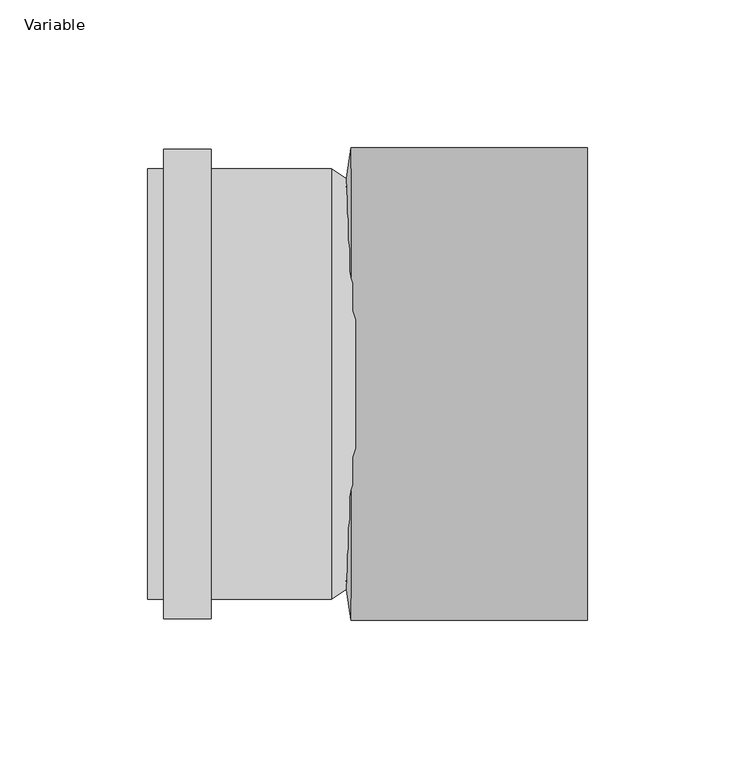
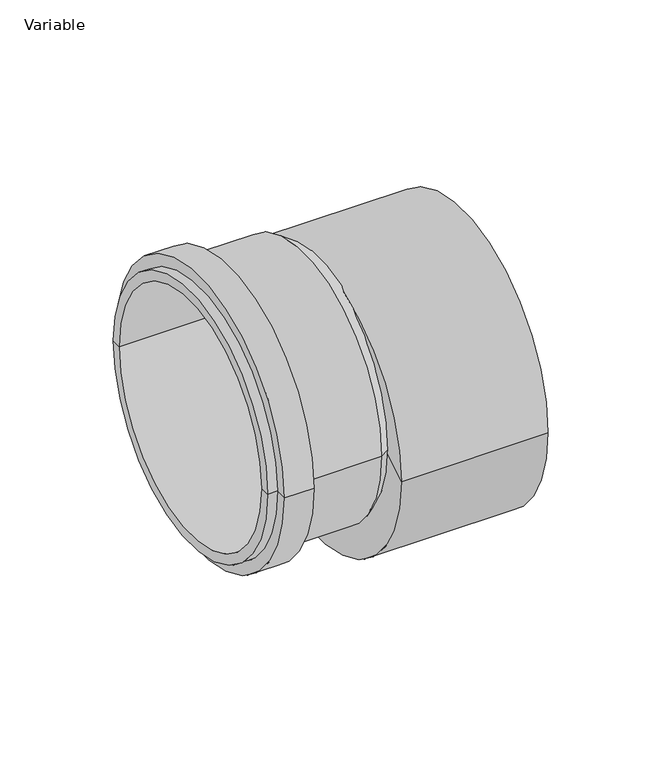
"""IFC4 building model written with IfcOpenShell, lengths in millimetres: pipe fitting geometry, AliaxisFR_Friaphon_Reducer_FR : Variable."""

import ifcopenshell
import ifcopenshell.guid

model = None  # the IFC model being written
_history = None  # IfcOwnerHistory: only IFC2X3 demands one
_inside = {}  # id of a spatial element -> (the spatial element, [elements in it])
_under = {}  # id of a project, library or spatial element -> (it, [spatial elements below it])
_declared = {}  # id of a project -> (the project, [libraries it declares])
_typed = {}  # id of a type object -> (the type object, [elements of that type])
_made_of = {}  # id of a material, layer set ... -> (it, [elements and type objects made of it])


def new_model(schema):
    """Start an empty IFC model of exactly this schema.

    Asked for "IFC4X3", IfcOpenShell would pick the latest addendum, in which some entities
    have other attributes; the version numbers below select the first issue.
    IFC2X3 requires an IfcOwnerHistory on every rooted entity: one is made here for all.
    """
    global model, _history
    if schema == "IFC4X3":
        model = ifcopenshell.file(schema_version=(4, 3, 0, 0))
    else:
        model = ifcopenshell.file(schema=schema)
    _inside.clear()
    _under.clear()
    _declared.clear()
    _typed.clear()
    _made_of.clear()
    _history = None
    if model.schema == "IFC2X3":
        org = make("IfcOrganization", Name="unknown")
        user = make(
            "IfcPersonAndOrganization",
            ThePerson=make("IfcPerson", FamilyName="unknown"),
            TheOrganization=org,
        )
        app = make(
            "IfcApplication",
            ApplicationDeveloper=org,
            Version="unknown",
            ApplicationFullName="unknown",
            ApplicationIdentifier="unknown",
        )
        _history = make(
            "IfcOwnerHistory",
            OwningUser=user,
            OwningApplication=app,
            ChangeAction="ADDED",
            CreationDate=0,
        )
    return model


def make(cls, **values):
    """One entity of the class cls with the attributes given. An attribute that is None is left unset."""
    return model.create_entity(
        cls, **{name: value for name, value in values.items() if value is not None}
    )


def rooted(cls, **values):
    """An entity with a GlobalId (a new one), such as an element, a storey or a relation."""
    return make(cls, GlobalId=ifcopenshell.guid.new(), OwnerHistory=_history, **values)


def si_unit(unit_type, name, prefix=None):
    """IfcSIUnit, for example si_unit("LENGTHUNIT", "METRE", prefix="MILLI")."""
    return make("IfcSIUnit", UnitType=unit_type, Prefix=prefix, Name=name)


def assignment(units):
    """IfcUnitAssignment: the units of a project."""
    return None if units is None else make("IfcUnitAssignment", Units=units)


def point(xyz):
    """IfcCartesianPoint."""
    return None if xyz is None else make("IfcCartesianPoint", Coordinates=xyz)


def direction(xyz):
    """IfcDirection."""
    return None if xyz is None else make("IfcDirection", DirectionRatios=xyz)


def frame(location, z_axis=None, x_axis=None):
    """IfcAxis2Placement3D, a coordinate frame: its origin and axes. An axis left out is left unset."""
    return make(
        "IfcAxis2Placement3D",
        Location=point(location),
        Axis=direction(z_axis),
        RefDirection=direction(x_axis),
    )


def frame_2d(location, x_axis=None):
    """IfcAxis2Placement2D, a coordinate frame in the plane: its origin and x axis."""
    return make(
        "IfcAxis2Placement2D", Location=point(location), RefDirection=direction(x_axis)
    )


def origin():
    """The frame at (0, 0, 0) with its axes left unset."""
    return frame((0.0, 0.0, 0.0))


def origin_2d():
    """The frame at (0, 0) in the plane with its x axis left unset."""
    return frame_2d((0.0, 0.0))


def place(relative_to, where):
    """IfcLocalPlacement: puts the frame where relative to a parent placement (None: the world)."""
    return make(
        "IfcLocalPlacement", PlacementRelTo=relative_to, RelativePlacement=where
    )


def context(
    kind, dimensions, precision=None, world=None, true_north=None, identifier=None
):
    """IfcGeometricRepresentationContext, for example the 3D "Model" context."""
    return make(
        "IfcGeometricRepresentationContext",
        ContextIdentifier=identifier,
        ContextType=kind,
        CoordinateSpaceDimension=dimensions,
        Precision=precision,
        WorldCoordinateSystem=world,
        TrueNorth=true_north,
    )


def project(units=None, contexts=None):
    """IfcProject with its units and contexts."""
    return rooted(
        "IfcProject",
        Name="project",
        RepresentationContexts=contexts,
        UnitsInContext=assignment(units),
    )


def spatial(cls, under=None, at=None, **own):
    """A site, building, storey or space (cls), placed at a placement, below another one or the project."""
    s = rooted(cls, ObjectPlacement=at, **own)
    if under is not None:
        _under.setdefault(under.id(), (under, []))[1].append(s)
    return s


def polyline(points):
    """IfcPolyline through the points."""
    return make("IfcPolyline", Points=[point(p) for p in points])


def circle_curve(where, radius):
    """IfcCircle in the frame where."""
    return make("IfcCircle", Position=where, Radius=radius)


def trimmed(basis, trim1, trim2, sense, master):
    """IfcTrimmedCurve: the piece of a basis curve between two trims."""
    return make(
        "IfcTrimmedCurve",
        BasisCurve=basis,
        Trim1=trim1,
        Trim2=trim2,
        SenseAgreement=sense,
        MasterRepresentation=master,
    )


def segment(curve, same_sense, transition):
    """IfcCompositeCurveSegment."""
    return make(
        "IfcCompositeCurveSegment",
        Transition=transition,
        SameSense=same_sense,
        ParentCurve=curve,
    )


def composite_curve(segments, self_intersect=None):
    """IfcCompositeCurve: segments joined end to end."""
    return make("IfcCompositeCurve", Segments=segments, SelfIntersect=self_intersect)


def outline(outer, holes=None, kind="AREA"):
    """IfcArbitraryClosedProfileDef: a profile drawn as a closed curve; with holes, ...WithVoids."""
    if holes is None:
        return make("IfcArbitraryClosedProfileDef", ProfileType=kind, OuterCurve=outer)
    return make(
        "IfcArbitraryProfileDefWithVoids",
        ProfileType=kind,
        OuterCurve=outer,
        InnerCurves=holes,
    )


def extrude(swept, where, along, depth):
    """IfcExtrudedAreaSolid: the profile swept, set in the frame where, extruded along a direction by depth."""
    return make(
        "IfcExtrudedAreaSolid",
        SweptArea=swept,
        Position=where,
        ExtrudedDirection=direction(along),
        Depth=depth,
    )


def shape(context_of_items, identifier, shape_type, items):
    """IfcShapeRepresentation: the items that make up one representation, for example the "Body"."""
    return make(
        "IfcShapeRepresentation",
        ContextOfItems=context_of_items,
        RepresentationIdentifier=identifier,
        RepresentationType=shape_type,
        Items=items,
    )


def source(mapping_origin, context_of_items, identifier, shape_type, items):
    """IfcRepresentationMap: a shape defined once, which mapped items show again and again."""
    return make(
        "IfcRepresentationMap",
        MappingOrigin=mapping_origin,
        MappedRepresentation=shape(context_of_items, identifier, shape_type, items),
    )


def transform(
    local_origin,
    x_axis=None,
    y_axis=None,
    z_axis=None,
    scale=None,
    scale2=None,
    scale3=None,
    uniform=True,
):
    """IfcCartesianTransformationOperator3D, or its non-uniform kind. x_axis, y_axis, z_axis: its Axis1, 2, 3."""
    if uniform:
        return make(
            "IfcCartesianTransformationOperator3D",
            Axis1=direction(x_axis),
            Axis2=direction(y_axis),
            LocalOrigin=point(local_origin),
            Scale=scale,
            Axis3=direction(z_axis),
        )
    return make(
        "IfcCartesianTransformationOperator3DnonUniform",
        Axis1=direction(x_axis),
        Axis2=direction(y_axis),
        LocalOrigin=point(local_origin),
        Scale=scale,
        Axis3=direction(z_axis),
        Scale2=scale2,
        Scale3=scale3,
    )


def mapped(mapping_source, mapping_target):
    """IfcMappedItem: shows the shape of a source again, moved by a transform."""
    return make(
        "IfcMappedItem", MappingSource=mapping_source, MappingTarget=mapping_target
    )


def made_of(thing, what):
    """Note that an element or type object is made of a material, layer set ...; save() writes the relation."""
    if what is not None:
        _made_of.setdefault(what.id(), (what, []))[1].append(thing)
    return thing


def element(
    cls,
    number,
    at=None,
    inside=None,
    cuts=None,
    type_object=None,
    material=None,
    context=None,
    identifier="Body",
    shape_type=None,
    held_by="IfcProductDefinitionShape",
    body=None,
    shapes=None,
    **own,
):
    """One element of the class cls, such as IfcWall. Its Tag is "e" and its number.

    at: its placement. inside: the storey or other place that contains it. cuts: it is an
    opening in that element (IfcRelVoidsElement). A single representation is given by context,
    identifier, shape_type and body (its items); several are given by shapes. held_by: the class
    of the entity that holds the representations. save() writes the other relations.
    """
    e = rooted(cls, Tag="e%d" % number, ObjectPlacement=at, **own)
    if body is not None:
        shapes = [shape(context, identifier, shape_type, body)]
    if shapes is not None:
        e.Representation = make(held_by, Representations=shapes)
    if inside is not None:
        _inside.setdefault(inside.id(), (inside, []))[1].append(e)
    if cuts is not None:
        rooted(
            "IfcRelVoidsElement", RelatingBuildingElement=cuts, RelatedOpeningElement=e
        )
    if type_object is not None:
        _typed.setdefault(type_object.id(), (type_object, []))[1].append(e)
    return made_of(e, material)


def aggregate(whole, parts):
    """IfcRelAggregates: a whole, such as a stair, and the parts it consists of."""
    return rooted("IfcRelAggregates", RelatingObject=whole, RelatedObjects=parts)


def save(model, path):
    """Write the relations noted so far, then the file.

    IfcRelAggregates (storeys below a building ...), IfcRelContainedInSpatialStructure (elements
    in a storey), IfcRelDefinesByType, IfcRelAssociatesMaterial and IfcRelDeclares: one each for
    every whole, place, type object, material and project.
    """
    for whole, parts in _under.values():
        aggregate(whole, parts)
    for where, things in _inside.values():
        rooted(
            "IfcRelContainedInSpatialStructure",
            RelatedElements=things,
            RelatingStructure=where,
        )
    for kind, things in _typed.values():
        rooted("IfcRelDefinesByType", RelatedObjects=things, RelatingType=kind)
    for what, things in _made_of.values():
        rooted("IfcRelAssociatesMaterial", RelatedObjects=things, RelatingMaterial=what)
    for by, libraries in _declared.values():
        rooted("IfcRelDeclares", RelatingContext=by, RelatedDefinitions=libraries)
    model.write(path)


def plane_surface(at):
    """IfcPlane: the flat surface through the origin of the frame at, square to its z axis."""
    return make("IfcPlane", Position=at)


def cylinder_surface(at, radius):
    """IfcCylindricalSurface: all points at the distance radius from the z axis of the frame at."""
    return make("IfcCylindricalSurface", Position=at, Radius=radius)


def revolved_surface(curve, axis_point, axis_direction):
    """IfcSurfaceOfRevolution: the curve turned about the line through axis_point along axis_direction."""
    return make(
        "IfcSurfaceOfRevolution",
        SweptCurve=make("IfcArbitraryOpenProfileDef", ProfileType="CURVE", Curve=curve),
        AxisPosition=make("IfcAxis1Placement", Location=point(axis_point), Axis=direction(axis_direction)),
    )


def spline_surface(u_degree, v_degree, points, u_multiplicities, v_multiplicities, u_knots, v_knots, weights=None):
    """IfcBSplineSurfaceWithKnots; with weights, IfcRationalBSplineSurfaceWithKnots. points: one row for each step in u."""
    own = dict(
        UDegree=u_degree,
        VDegree=v_degree,
        ControlPointsList=[[point(p) for p in row] for row in points],
        SurfaceForm="UNSPECIFIED",
        UClosed=False,
        VClosed=False,
        SelfIntersect=False,
        UMultiplicities=u_multiplicities,
        VMultiplicities=v_multiplicities,
        UKnots=u_knots,
        VKnots=v_knots,
        KnotSpec="UNSPECIFIED",
    )
    if weights is None:
        return make("IfcBSplineSurfaceWithKnots", **own)
    return make("IfcRationalBSplineSurfaceWithKnots", WeightsData=weights, **own)


def advanced_brep(points, edges, surfaces, faces):
    """IfcAdvancedBrep: a solid bounded by faces that lie on surfaces and meet in shared edges.

    An edge is (start, end): straight between two places in points (the first is 0);
    or (start, end, curve); or (start, end, curve, False) where it runs against its curve.
    A face is (place in surfaces, loops), or (place, loops, False) where it looks against
    its surface's normal. A loop lists edges by number (the first is 1), with a minus sign
    where the edge is run from its end to its start. The first loop is the outer one.
    """
    corners = [point(p) for p in points]
    vertices = [make("IfcVertexPoint", VertexGeometry=c) for c in corners]
    made = []
    for start, end, *more in edges:
        made.append(
            make(
                "IfcEdgeCurve",
                EdgeStart=vertices[start],
                EdgeEnd=vertices[end],
                EdgeGeometry=more[0] if more else make("IfcPolyline", Points=[corners[start], corners[end]]),
                SameSense=more[1] if len(more) > 1 else True,
            )
        )
    hull = []
    for where, loops, *sense in faces:
        bounds = []
        for j, loop in enumerate(loops):
            ring = [make("IfcOrientedEdge", EdgeElement=made[abs(k) - 1], Orientation=k > 0) for k in loop]
            bounds.append(
                make(
                    "IfcFaceOuterBound" if j == 0 else "IfcFaceBound",
                    Bound=make("IfcEdgeLoop", EdgeList=ring),
                    Orientation=True,
                )
            )
        hull.append(make("IfcAdvancedFace", Bounds=bounds, FaceSurface=surfaces[where], SameSense=sense[0] if sense else True))
    return make("IfcAdvancedBrep", Outer=make("IfcClosedShell", CfsFaces=hull))


def variable_e2a04ae8(model_context):
    return source(origin(), model_context, "Body", "SolidModel", [
        advanced_brep(
        [(-107.0, -72.9, 0.0), (-107.0, 72.9, 0.0), (-107.0, 67.5, 0.0), (-107.0, -67.5, 0.0), (-85.5, -79.5, 0.0), (-85.5, 79.5, 0.0), (-101.6, 79.5, 0.0), (-101.6, -79.5, 0.0), (-85.5, -72.9, 0.0), (-85.5, 72.9, 0.0), (-44.7, -72.9, 0.0), (-44.7, 72.9, 0.0), (-36.6, 67.5, 0.0), (-36.6, -67.5, 0.0), (-101.6, -72.9, 0.0), (-101.6, 72.9, 0.0)],
        [
            (0, 1, circle_curve(frame((-107.0, 0.0, 0.0), z_axis=(-1.0, 0.0, 0.0), x_axis=(0.0, 1.0, 0.0)), 72.9)),
            (1, 2),
            (2, 3, circle_curve(frame((-107.0, 0.0, 0.0), z_axis=(1.0, 0.0, 0.0), x_axis=(0.0, 1.0, 0.0)), 67.5)),
            (3, 0),
            (1, 0, circle_curve(frame((-107.0, 0.0, 0.0), z_axis=(-1.0, 0.0, 0.0), x_axis=(0.0, 1.0, 0.0)), 72.9)),
            (3, 2, circle_curve(frame((-107.0, 0.0, 0.0), z_axis=(1.0, 0.0, 0.0), x_axis=(0.0, 1.0, 0.0)), 67.5)),
            (4, 5, circle_curve(frame((-85.5, 0.0, 0.0), z_axis=(-1.0, 0.0, 0.0), x_axis=(0.0, 1.0, 0.0)), 79.5)),
            (5, 6),
            (6, 7, circle_curve(frame((-101.6, 0.0, 0.0), z_axis=(1.0, 0.0, 0.0), x_axis=(0.0, 1.0, 0.0)), 79.5)),
            (7, 4),
            (5, 4, circle_curve(frame((-85.5, 0.0, 0.0), z_axis=(-1.0, 0.0, 0.0), x_axis=(0.0, 1.0, 0.0)), 79.5)),
            (7, 6, circle_curve(frame((-101.6, 0.0, 0.0), z_axis=(1.0, 0.0, 0.0), x_axis=(0.0, 1.0, 0.0)), 79.5)),
            (8, 9, circle_curve(frame((-85.5, 0.0, 0.0), z_axis=(-1.0, 0.0, 0.0), x_axis=(0.0, 1.0, 0.0)), 72.9)),
            (9, 5),
            (4, 8),
            (9, 8, circle_curve(frame((-85.5, 0.0, 0.0), z_axis=(-1.0, 0.0, 0.0), x_axis=(0.0, 1.0, 0.0)), 72.9)),
            (10, 11, circle_curve(frame((-44.7, 0.0, 0.0), z_axis=(-1.0, 0.0, 0.0), x_axis=(0.0, 1.0, 0.0)), 72.9)),
            (11, 9),
            (8, 10),
            (11, 10, circle_curve(frame((-44.7, 0.0, 0.0), z_axis=(-1.0, 0.0, 0.0), x_axis=(0.0, 1.0, 0.0)), 72.9)),
            (2, 12),
            (12, 13, circle_curve(frame((-36.6, 0.0, 0.0), z_axis=(1.0, 0.0, 0.0), x_axis=(0.0, 1.0, 0.0)), 67.5)),
            (13, 3),
            (13, 12, circle_curve(frame((-36.6, 0.0, 0.0), z_axis=(1.0, 0.0, 0.0), x_axis=(0.0, 1.0, 0.0)), 67.5)),
            (12, 11),
            (10, 13),
            (14, 15, circle_curve(frame((-101.6, 0.0, 0.0), z_axis=(-1.0, 0.0, 0.0), x_axis=(0.0, 1.0, 0.0)), 72.9)),
            (15, 1),
            (0, 14),
            (15, 14, circle_curve(frame((-101.6, 0.0, 0.0), z_axis=(-1.0, 0.0, 0.0), x_axis=(0.0, 1.0, 0.0)), 72.9)),
            (6, 15),
            (14, 7),
        ],
        [
            plane_surface(frame((-107.0, 0.0, 0.0), z_axis=(-1.0, 0.0, 0.0), x_axis=(0.0, 1.0, 0.0))),
            cylinder_surface(frame((-36.6, 0.0, 0.0), z_axis=(1.0, 0.0, 0.0), x_axis=(0.0, 1.0, 0.0)), 79.5),
            plane_surface(frame((-85.5, 0.0, 0.0), z_axis=(1.0, 0.0, 0.0), x_axis=(0.0, 1.0, 0.0))),
            cylinder_surface(frame((-36.6, 0.0, 0.0), z_axis=(1.0, 0.0, 0.0), x_axis=(0.0, 1.0, 0.0)), 72.9),
            revolved_surface(polyline([(-36.6, 67.5, 0.0), (-107.0, 67.5, 0.0)]), (-36.6, 0.0, 0.0), (1.0, 0.0, 0.0)),
            revolved_surface(polyline([(-44.7, 72.9, 0.0), (-36.6, 67.5, 0.0)]), (-36.6, 0.0, 0.0), (1.0, 0.0, 0.0)),
            plane_surface(frame((-101.6, 0.0, 0.0), z_axis=(-1.0, 0.0, 0.0), x_axis=(0.0, 1.0, 0.0))),
        ],
        [
            (0, [[1, 2, 3, 4]]),
            (0, [[5, -4, 6, -2]]),
            (1, [[7, 8, 9, 10]]),
            (1, [[11, -10, 12, -8]]),
            (2, [[13, 14, -7, 15]]),
            (2, [[16, -15, -11, -14]]),
            (3, [[17, 18, -13, 19]]),
            (3, [[20, -19, -16, -18]]),
            (4, [[-3, 21, 22, 23]]),
            (4, [[-6, -23, 24, -21]]),
            (5, [[-22, 25, -17, 26]]),
            (5, [[-24, -26, -20, -25]]),
            (3, [[27, 28, -1, 29]]),
            (3, [[30, -29, -5, -28]]),
            (6, [[-9, 31, -27, 32]]),
            (6, [[-12, -32, -30, -31]]),
        ],
    ),
        extrude(outline(composite_curve([segment(trimmed(circle_curve(origin_2d(), 67.5), [point((-67.5, 0.0))], [point((67.5, 0.0))], False, "CARTESIAN"), True, "CONTINUOUS"), segment(trimmed(circle_curve(origin_2d(), 67.5), [point((67.5, 0.0))], [point((-67.5, 0.0))], False, "CARTESIAN"), True, "CONTINUOUS")], self_intersect=False)), frame((-42.0, 0.0, 0.0), z_axis=(1.0, 0.0, 0.0), x_axis=(0.0, 1.0, 0.0)), (0.0, 0.0, 1.0), 2.0),
        advanced_brep(
        [(-40.0, -67.5, 0.0), (-40.0, 67.5, 0.0), (-38.0, -80.0, -12.5), (-38.0, 80.0, -12.5)],
        [
            (0, 1, circle_curve(frame((-40.0, 0.0, 0.0), z_axis=(-1.0, 0.0, 0.0), x_axis=(0.0, 1.0, 0.0)), 67.5)),
            (1, 0, circle_curve(frame((-40.0, 0.0, 0.0), z_axis=(-1.0, 0.0, 0.0), x_axis=(0.0, 1.0, 0.0)), 67.5)),
            (2, 3, circle_curve(frame((-38.0, 0.0, -12.5), z_axis=(1.0, 0.0, 0.0), x_axis=(0.0, 1.0, 0.0)), 80.0)),
            (3, 2, circle_curve(frame((-38.0, 0.0, -12.5), z_axis=(1.0, 0.0, 0.0), x_axis=(0.0, 1.0, 0.0)), 80.0)),
            (3, 1),
            (0, 2),
        ],
        [
            plane_surface(frame((-40.0, 0.0, 0.0), z_axis=(-1.0, 0.0, 0.0), x_axis=(0.0, 0.0, 1.0))),
            plane_surface(frame((-38.0, 0.0, -12.5), z_axis=(1.0, 0.0, 0.0), x_axis=(0.0, 0.0, 1.0))),
            spline_surface(2, 1, [[(-38.0, -80.0, -12.5), (-40.0, -67.5, 0.0)], [(-38.0, -80.0, 67.5), (-40.0, -67.5, 67.5)], [(-38.0, 0.0, 67.5), (-40.0, 0.0, 67.5)], [(-38.0, 80.0, 67.5), (-40.0, 67.5, 67.5)], [(-38.0, 80.0, -12.5), (-40.0, 67.5, 0.0)]], [3, 2, 3], [2, 2], [0.0, 1.0, 2.0], [0.0, 1.0], weights=[[1.0, 1.0], [0.7071067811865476, 0.7071067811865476], [1.0, 1.0], [0.7071067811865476, 0.7071067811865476], [1.0, 1.0]]),
            spline_surface(2, 1, [[(-38.0, 80.0, -12.5), (-40.0, 67.5, 0.0)], [(-38.0, 80.0, -92.5), (-40.0, 67.5, -67.5)], [(-38.0, 0.0, -92.5), (-40.0, 0.0, -67.5)], [(-38.0, -80.0, -92.5), (-40.0, -67.5, -67.5)], [(-38.0, -80.0, -12.5), (-40.0, -67.5, 0.0)]], [3, 2, 3], [2, 2], [0.0, 1.0, 2.0], [0.0, 1.0], weights=[[1.0, 1.0], [0.7071067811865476, 0.7071067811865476], [1.0, 1.0], [0.7071067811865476, 0.7071067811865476], [1.0, 1.0]]),
        ],
        [
            (0, [[1, 2]]),
            (1, [[3, 4]]),
            (2, [[-4, 5, -1, 6]]),
            (3, [[-3, -6, -2, -5]]),
        ],
    ),
        extrude(outline(composite_curve([segment(trimmed(circle_curve(frame_2d((0.0, -12.5)), 80.0), [point((-80.0, -12.5))], [point((80.0, -12.5))], False, "CARTESIAN"), True, "CONTINUOUS"), segment(trimmed(circle_curve(frame_2d((0.0, -12.5)), 80.0), [point((80.0, -12.5))], [point((-80.0, -12.5))], False, "CARTESIAN"), True, "CONTINUOUS")], self_intersect=False)), frame((-38.0, 0.0, 0.0), z_axis=(1.0, 0.0, 0.0), x_axis=(0.0, 1.0, 0.0)), (0.0, 0.0, 1.0), 80.0),
    ])


if __name__ == "__main__":
    model = new_model("IFC4")
    model_context = context("Model", 3, world=origin())
    ifc_project = project(units=[si_unit("LENGTHUNIT", "METRE", prefix="MILLI")], contexts=[model_context])
    site = spatial("IfcSite", under=ifc_project)
    building = spatial("IfcBuilding", under=site)
    placement = place(None, origin())
    variable_shape = variable_e2a04ae8(model_context)
    element("IfcPipeFitting", 1, ObjectType="AliaxisFR_Friaphon_Reducer_FR : Variable", at=placement, inside=building, context=model_context, shape_type="MappedRepresentation", body=[
        mapped(variable_shape, transform((0.0, 0.0, 0.0), x_axis=(1.0, 0.0, 0.0), y_axis=(0.0, 1.0, 0.0), z_axis=(0.0, 0.0, 1.0))),
    ])
    save(model, "model.ifc")
